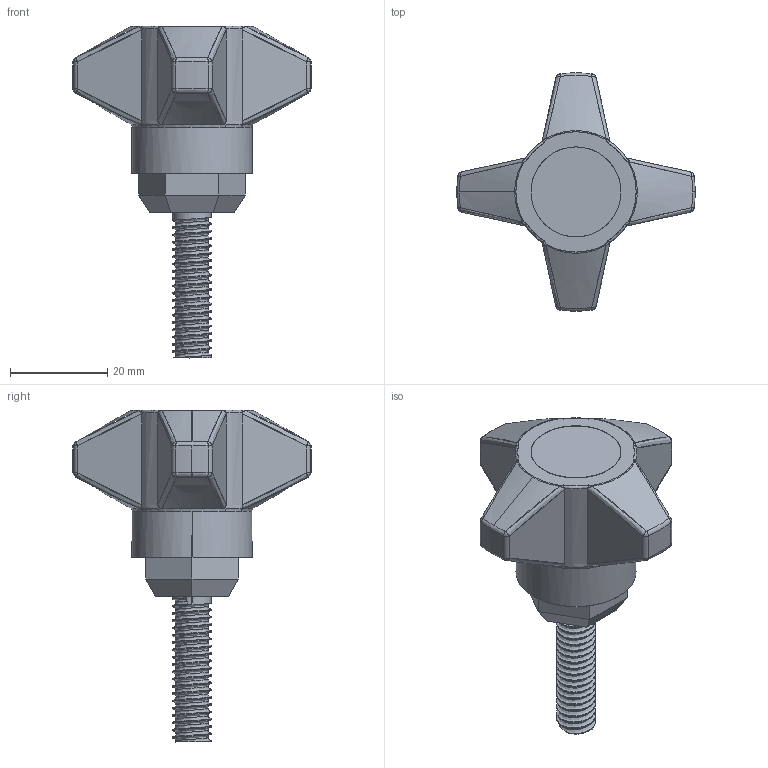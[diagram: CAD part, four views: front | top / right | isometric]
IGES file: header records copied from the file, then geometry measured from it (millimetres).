
Start section: SolidWorks IGES file using analytic representation for surfaces
Global section: file name: C:\Documents and Settings\URETIM3\Desktop\katalog 3 boyutlar tolgay\yeni katalog tolgay\B kataloðu\ERKEK TUTGAÇLAR\210 E08 130.IGS; native system: SolidWorks 2006 by SolidWorks Corporation; preprocessor: SolidWorks 2006 by SolidWorks Corporation; author: URETIM3; date: 061114.132446; units: millimetre
Bounding box: 49 x 48.95 x 68.25 mm (x, y, z)
Surface area: 6470.4 mm2 (no closed solid volume)
Topology: 0 solids, 0 shells, 167 faces, 2719 edges, 2719 vertices
Faces by surface type: revolution 87, bspline 80
